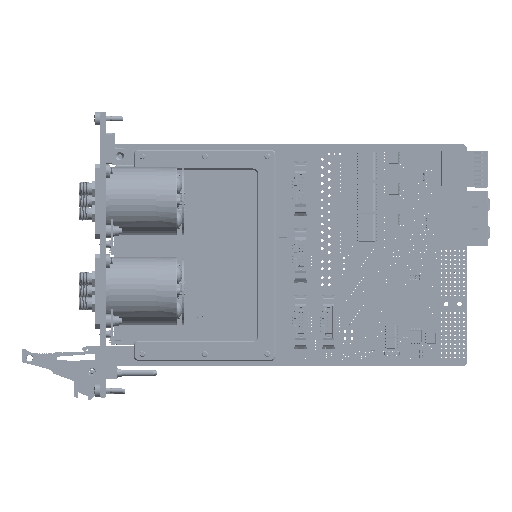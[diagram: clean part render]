
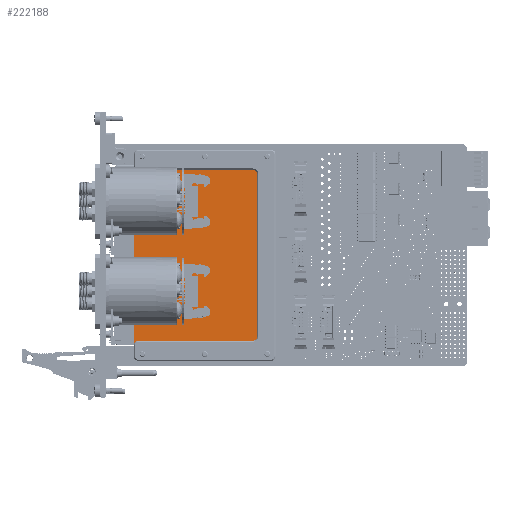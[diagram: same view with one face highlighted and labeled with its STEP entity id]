
A CAD part, top view. The second image highlights one B-rep face of the part: STEP entity #222188.
In plain terms, the highlighted planar face has unit normal (0, 0, 1).
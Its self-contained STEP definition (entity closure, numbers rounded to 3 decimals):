
#29849 = VERTEX_POINT ( 'NONE', #374078 ) ;
#35273 = EDGE_CURVE ( 'NONE', #240899, #145331, #389432, .T. ) ;
#42926 = FACE_OUTER_BOUND ( 'NONE', #266291, .T. ) ;
#55857 = CARTESIAN_POINT ( 'NONE',  ( 6.95, 61.88, 2.25 ) ) ;
#78236 = ORIENTED_EDGE ( 'NONE', *, *, #422730, .T. ) ;
#87666 = LINE ( 'NONE', #92589, #275158 ) ;
#88206 = EDGE_CURVE ( 'NONE', #145331, #258291, #456947, .T. ) ;
#89957 = CARTESIAN_POINT ( 'NONE',  ( 86.1, 10.32, 2.25 ) ) ;
#92589 = CARTESIAN_POINT ( 'NONE',  ( 8.95, 8.32, 2.25 ) ) ;
#102071 = CIRCLE ( 'NONE', #470547, 2. ) ;
#127734 = DIRECTION ( 'NONE',  ( 0., -1., 0. ) ) ;
#131415 = ORIENTED_EDGE ( 'NONE', *, *, #386696, .T. ) ;
#138351 = CARTESIAN_POINT ( 'NONE',  ( 8.95, 61.88, 2.25 ) ) ;
#145331 = VERTEX_POINT ( 'NONE', #336778 ) ;
#145448 = EDGE_CURVE ( 'NONE', #29849, #375595, #459716, .T. ) ;
#160682 = CARTESIAN_POINT ( 'NONE',  ( 0., 0., 2.25 ) ) ;
#165564 = AXIS2_PLACEMENT_3D ( 'NONE', #352107, #389804, #472690 ) ;
#166932 = LINE ( 'NONE', #442551, #385088 ) ;
#175010 = VERTEX_POINT ( 'NONE', #453729 ) ;
#181593 = DIRECTION ( 'NONE',  ( 0., 0., -1. ) ) ;
#188250 = ORIENTED_EDGE ( 'NONE', *, *, #145448, .T. ) ;
#195805 = DIRECTION ( 'NONE',  ( 0., 0., -1. ) ) ;
#197494 = CARTESIAN_POINT ( 'NONE',  ( 84.1, 10.32, 2.25 ) ) ;
#208773 = DIRECTION ( 'NONE',  ( 0., 0., -1. ) ) ;
#221325 = CARTESIAN_POINT ( 'NONE',  ( 86.1, 8.32, 2.25 ) ) ;
#221671 = CARTESIAN_POINT ( 'NONE',  ( 88.1, 61.88, 2.25 ) ) ;
#222188 = ADVANCED_FACE ( 'NONE', ( #42926 ), #348493, .F. ) ;
#231086 = EDGE_CURVE ( 'NONE', #375595, #175010, #395522, .T. ) ;
#234077 = ORIENTED_EDGE ( 'NONE', *, *, #35273, .T. ) ;
#240899 = VERTEX_POINT ( 'NONE', #283000 ) ;
#243871 = DIRECTION ( 'NONE',  ( -1., 0., 0. ) ) ;
#258291 = VERTEX_POINT ( 'NONE', #463472 ) ;
#266291 = EDGE_LOOP ( 'NONE', ( #188250, #386804, #78236, #131415, #234077, #432464, #448021, #359102 ) ) ;
#275158 = VECTOR ( 'NONE', #127734, 1000. ) ;
#283000 = CARTESIAN_POINT ( 'NONE',  ( 8.95, 10.32, 2.25 ) ) ;
#285870 = CIRCLE ( 'NONE', #486108, 2. ) ;
#308806 = AXIS2_PLACEMENT_3D ( 'NONE', #160682, #195805, #391178 ) ;
#334336 = DIRECTION ( 'NONE',  ( -1., 0., 0. ) ) ;
#335381 = EDGE_CURVE ( 'NONE', #258291, #480749, #102071, .T. ) ;
#336778 = CARTESIAN_POINT ( 'NONE',  ( 10.95, 8.32, 2.25 ) ) ;
#348493 = PLANE ( 'NONE',  #308806 ) ;
#350166 = DIRECTION ( 'NONE',  ( 0., 0., 1. ) ) ;
#352107 = CARTESIAN_POINT ( 'NONE',  ( 10.95, 10.32, 2.25 ) ) ;
#355313 = AXIS2_PLACEMENT_3D ( 'NONE', #221671, #181593, #334336 ) ;
#359102 = ORIENTED_EDGE ( 'NONE', *, *, #367512, .T. ) ;
#361134 = VECTOR ( 'NONE', #416745, 1000. ) ;
#367512 = EDGE_CURVE ( 'NONE', #480749, #29849, #166932, .T. ) ;
#374078 = CARTESIAN_POINT ( 'NONE',  ( 86.1, 61.88, 2.25 ) ) ;
#375595 = VERTEX_POINT ( 'NONE', #406513 ) ;
#385088 = VECTOR ( 'NONE', #450002, 1000. ) ;
#386696 = EDGE_CURVE ( 'NONE', #389390, #240899, #87666, .T. ) ;
#386804 = ORIENTED_EDGE ( 'NONE', *, *, #231086, .T. ) ;
#389390 = VERTEX_POINT ( 'NONE', #138351 ) ;
#389432 = CIRCLE ( 'NONE', #165564, 2. ) ;
#389804 = DIRECTION ( 'NONE',  ( 0., 0., 1. ) ) ;
#391178 = DIRECTION ( 'NONE',  ( -1., 0., 0. ) ) ;
#395522 = LINE ( 'NONE', #463546, #451049 ) ;
#406513 = CARTESIAN_POINT ( 'NONE',  ( 87.132, 63.63, 2.25 ) ) ;
#416745 = DIRECTION ( 'NONE',  ( 1., 0., 0. ) ) ;
#422730 = EDGE_CURVE ( 'NONE', #175010, #389390, #285870, .T. ) ;
#432464 = ORIENTED_EDGE ( 'NONE', *, *, #88206, .T. ) ;
#442551 = CARTESIAN_POINT ( 'NONE',  ( 86.1, 63.88, 2.25 ) ) ;
#448021 = ORIENTED_EDGE ( 'NONE', *, *, #335381, .T. ) ;
#450002 = DIRECTION ( 'NONE',  ( 0., 1., 0. ) ) ;
#451049 = VECTOR ( 'NONE', #466005, 1000. ) ;
#453729 = CARTESIAN_POINT ( 'NONE',  ( 7.918, 63.63, 2.25 ) ) ;
#454038 = DIRECTION ( 'NONE',  ( -1., 0., 0. ) ) ;
#456947 = LINE ( 'NONE', #221325, #361134 ) ;
#459716 = CIRCLE ( 'NONE', #355313, 2. ) ;
#463472 = CARTESIAN_POINT ( 'NONE',  ( 84.1, 8.32, 2.25 ) ) ;
#463546 = CARTESIAN_POINT ( 'NONE',  ( 0., 63.63, 2.25 ) ) ;
#466005 = DIRECTION ( 'NONE',  ( -1., 0., 0. ) ) ;
#470547 = AXIS2_PLACEMENT_3D ( 'NONE', #197494, #350166, #454038 ) ;
#472690 = DIRECTION ( 'NONE',  ( -1., 0., 0. ) ) ;
#480749 = VERTEX_POINT ( 'NONE', #89957 ) ;
#486108 = AXIS2_PLACEMENT_3D ( 'NONE', #55857, #208773, #243871 ) ;
